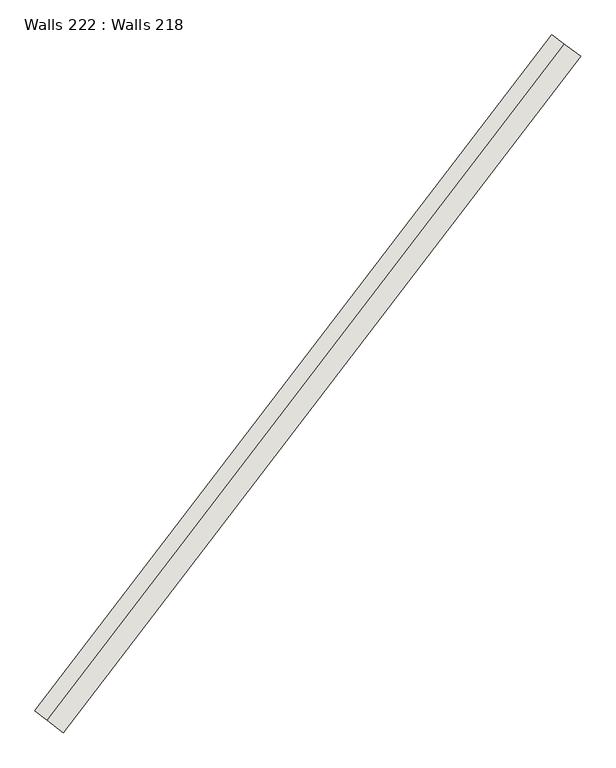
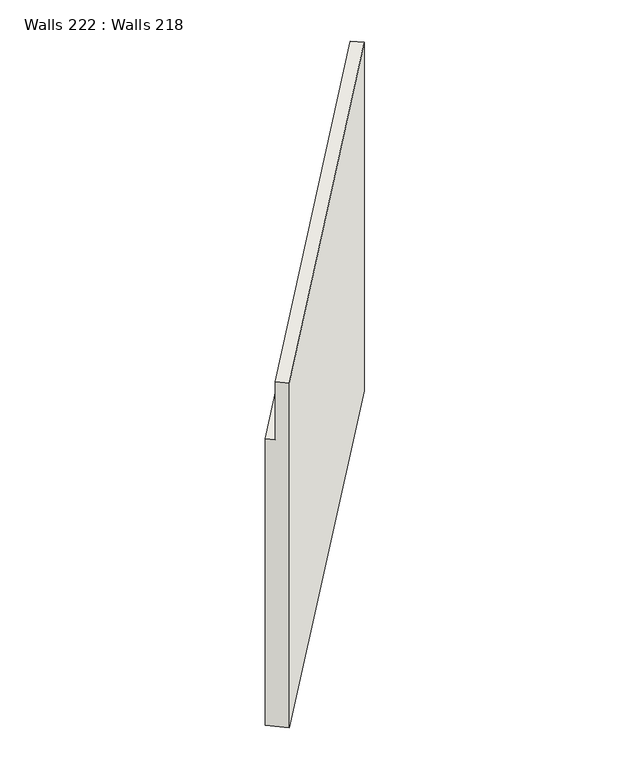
"""IFC4 building model written with IfcOpenShell, lengths in millimetres: wall geometry, Walls 222 : Walls 218."""

from ifc_helpers import new_model, si_unit, frame, origin, place, context, project, spatial, source, transform, mapped, element, save
from ifc_brep_helpers import plane_surface, spline_curve, spline_surface, advanced_brep


def walls_222_walls_218_feb41856(model_context):
    return source(origin(), model_context, "Body", "AdvancedBrep", [
        advanced_brep(
        [(396205.2577611, 315398.19284, 651460.0), (396366.2300075, 315279.5002291, 651460.0), (396366.2300075, 315279.5002291, 645420.0), (396084.5285763, 315487.2122982, 645420.0), (396084.5285763, 315487.2122982, 650460.0), (396205.2577611, 315398.19284, 650460.0), (391204.0228698, 308858.8051081, 651270.0), (391204.0228698, 308858.8051081, 650270.0), (391086.4886364, 308952.0022324, 650270.0), (391086.4886364, 308952.0022324, 645300.0), (391360.735181, 308734.5422757, 645300.0), (391360.735181, 308734.5422757, 651270.0)],
        [
            (0, 1),
            (1, 2),
            (2, 3),
            (3, 4),
            (4, 5),
            (5, 0),
            (6, 7),
            (7, 8),
            (8, 9),
            (9, 10),
            (10, 11),
            (11, 6),
            (11, 1, spline_curve(3, [(391360.735181, 308734.5422757, 651270.0), (393067.310955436, 310886.718852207, 651333.333333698), (394736.151146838, 313068.818556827, 651396.666666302), (396366.2300075, 315279.5002291, 651460.0)], [4, 4], [0.0, 27.029781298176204])),
            (0, 6, spline_curve(3, [(396205.2577611, 315398.19284, 651460.0), (394576.566180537, 313189.392613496, 651396.666666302), (392909.146258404, 311009.150029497, 651333.333333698), (391204.0228698, 308858.8051081, 651270.0)], [4, 4], [0.0, 27.029781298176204])),
            (10, 2, spline_curve(3, [(391360.735181, 308734.5422757, 645300.0), (393067.310954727, 310886.718852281, 645340.000000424), (394736.15114689, 313068.818557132, 645379.999999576), (396366.2300075, 315279.5002291, 645420.0)], [4, 4], [0.0, 27.038878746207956])),
            (9, 3, spline_curve(3, [(391086.4886364, 308952.0022324, 645300.0), (392790.522736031, 311100.973412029, 645340.000000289), (394456.877456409, 313279.8231559, 645379.999999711), (396084.5285763, 315487.2122982, 645420.0)], [4, 4], [0.0, 27.016833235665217])),
            (8, 4, spline_curve(3, [(391086.4886364, 308952.0022324, 650270.0), (392790.522735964, 311100.973412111, 650333.333333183), (394456.877456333, 313279.823155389, 650396.666666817), (396084.5285763, 315487.2122982, 650460.0)], [4, 4], [0.0, 26.998622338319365])),
            (7, 5, spline_curve(3, [(391204.0228698, 308858.8051081, 650270.0), (392909.146258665, 311009.150029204, 650333.333333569), (394576.566180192, 313189.39261363, 650396.666666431), (396205.2577611, 315398.19284, 650460.0)], [4, 4], [0.0, 27.009654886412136])),
        ],
        [
            plane_surface(frame((396218.672115, 315388.3017891, 649113.3333333), z_axis=(0.5934630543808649, 0.8048612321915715, 0.0), x_axis=(0.8048612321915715, -0.5934630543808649, 0.0))),
            plane_surface(frame((391217.0822291, 308848.4498721, 648946.6666667), z_axis=(-0.6213141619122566, -0.7835615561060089, 0.0), x_axis=(0.7835615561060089, -0.6213141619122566, 0.0))),
            spline_surface(3, 3, [[(391204.0228698, 308858.8051081, 651270.0), (392909.146258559, 311009.150029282, 651333.333333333), (394576.566180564, 313189.392613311, 651396.666666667), (396205.2577611, 315398.19284, 651460.0)], [(391256.260306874, 308817.384163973, 651270.0), (392961.867824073, 310968.33963688, 651333.333333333), (394629.761169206, 313149.201261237, 651396.666666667), (396258.915176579, 315358.628636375, 651460.0)], [(391308.497743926, 308775.963219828, 651270.0), (393014.589389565, 310927.529244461, 651333.333333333), (394682.95615781, 313109.009909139, 651396.666666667), (396312.572592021, 315319.064432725, 651460.0)], [(391360.735181, 308734.5422757, 651270.0), (393067.310955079, 310886.718852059, 651333.333333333), (394736.151146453, 313068.818557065, 651396.666666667), (396366.2300075, 315279.5002291, 651460.0)]], [4, 4], [4, 4], [0.0, 0.6561679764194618], [0.0, 27.029781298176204]),
            spline_surface(3, 3, [[(391360.735181, 308734.5422757, 651270.0), (393067.310955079, 310886.718852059, 651333.333333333), (394736.151146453, 313068.818557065, 651396.666666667), (396366.2300075, 315279.5002291, 651460.0)], [(391360.735181, 308734.5422757, 649280.0), (393067.310955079, 310886.718852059, 649335.555555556), (394736.151146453, 313068.818557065, 649391.111111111), (396366.2300075, 315279.5002291, 649446.666666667)], [(391360.735181, 308734.5422757, 647290.0), (393067.310955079, 310886.718852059, 647337.777777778), (394736.151146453, 313068.818557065, 647385.555555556), (396366.2300075, 315279.5002291, 647433.333333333)], [(391360.735181, 308734.5422757, 645300.0), (393067.310955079, 310886.718852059, 645340.0), (394736.151146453, 313068.818557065, 645380.0), (396366.2300075, 315279.5002291, 645420.0)]], [4, 4], [4, 4], [0.0, 19.701443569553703], [0.0, 27.038878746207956]),
            spline_surface(3, 3, [[(391360.735181, 308734.5422757, 645300.0), (393067.310955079, 310886.718852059, 645340.0), (394736.151146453, 313068.818557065, 645380.0), (396366.2300075, 315279.5002291, 645420.0)], [(391269.319666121, 308807.028927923, 645300.0), (392975.04821543, 310958.137038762, 645340.0), (394643.059916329, 313139.153423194, 645380.0), (396272.329530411, 315348.737585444, 645420.0)], [(391177.904151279, 308879.515580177, 645300.0), (392882.785475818, 311029.555225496, 645340.0), (394549.968686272, 313209.488289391, 645380.0), (396178.429053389, 315417.974941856, 645420.0)], [(391086.4886364, 308952.0022324, 645300.0), (392790.522736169, 311100.973412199, 645340.0), (394456.877456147, 313279.82315552, 645380.0), (396084.5285763, 315487.2122982, 645420.0)]], [4, 4], [4, 4], [0.0, 1.1482939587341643], [0.0, 27.016833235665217]),
            spline_surface(3, 3, [[(391086.4886364, 308952.0022324, 645300.0), (392790.522736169, 311100.973412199, 645340.0), (394456.877456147, 313279.82315552, 645380.0), (396084.5285763, 315487.2122982, 645420.0)], [(391086.4886364, 308952.0022324, 646956.666666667), (392790.522736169, 311100.973412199, 647004.444444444), (394456.877456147, 313279.82315552, 647052.222222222), (396084.5285763, 315487.2122982, 647100.0)], [(391086.4886364, 308952.0022324, 648613.333333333), (392790.522736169, 311100.973412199, 648668.888888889), (394456.877456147, 313279.82315552, 648724.444444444), (396084.5285763, 315487.2122982, 648780.0)], [(391086.4886364, 308952.0022324, 650270.0), (392790.522736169, 311100.973412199, 650333.333333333), (394456.877456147, 313279.82315552, 650396.666666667), (396084.5285763, 315487.2122982, 650460.0)]], [4, 4], [4, 4], [0.0, 16.42060367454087], [0.0, 26.998622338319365]),
            spline_surface(3, 3, [[(391086.4886364, 308952.0022324, 650270.0), (392790.522736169, 311100.973412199, 650333.333333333), (394456.877456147, 313279.82315552, 650396.666666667), (396084.5285763, 315487.2122982, 650460.0)], [(391125.666714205, 308920.936524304, 650270.0), (392830.063910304, 311070.365617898, 650333.333333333), (394496.773697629, 313249.679641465, 650396.666666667), (396124.77163791, 315457.539145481, 650460.0)], [(391164.844791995, 308889.870816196, 650270.0), (392869.605084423, 311039.757823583, 650333.333333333), (394536.669939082, 313219.536127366, 650396.666666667), (396165.01469949, 315427.865992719, 650460.0)], [(391204.0228698, 308858.8051081, 650270.0), (392909.146258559, 311009.150029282, 650333.333333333), (394576.566180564, 313189.392613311, 650396.666666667), (396205.2577611, 315398.19284, 650460.0)]], [4, 4], [4, 4], [0.0, 0.4921259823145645], [0.0, 27.009654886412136]),
            spline_surface(3, 3, [[(391204.0228698, 308858.8051081, 650270.0), (392909.146258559, 311009.150029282, 650333.333333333), (394576.566180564, 313189.392613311, 650396.666666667), (396205.2577611, 315398.19284, 650460.0)], [(391204.0228698, 308858.8051081, 650603.333333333), (392909.146258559, 311009.150029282, 650666.666666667), (394576.566180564, 313189.392613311, 650730.0), (396205.2577611, 315398.19284, 650793.333333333)], [(391204.0228698, 308858.8051081, 650936.666666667), (392909.146258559, 311009.150029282, 651000.0), (394576.566180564, 313189.392613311, 651063.333333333), (396205.2577611, 315398.19284, 651126.666666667)], [(391204.0228698, 308858.8051081, 651270.0), (392909.146258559, 311009.150029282, 651333.333333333), (394576.566180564, 313189.392613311, 651396.666666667), (396205.2577611, 315398.19284, 651460.0)]], [4, 4], [4, 4], [0.0, 3.280839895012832], [0.0, 27.018280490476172]),
        ],
        [
            (0, [[1, 2, 3, 4, 5, 6]]),
            (1, [[7, 8, 9, 10, 11, 12]]),
            (2, [[-12, 13, -1, 14]]),
            (3, [[-11, 15, -2, -13]]),
            (4, [[-10, 16, -3, -15]]),
            (5, [[-9, 17, -4, -16]]),
            (6, [[-8, 18, -5, -17]]),
            (7, [[-7, -14, -6, -18]]),
        ],
    ),
    ])


if __name__ == "__main__":
    model = new_model("IFC4")
    model_context = context("Model", 3, world=origin())
    ifc_project = project(units=[si_unit("LENGTHUNIT", "METRE", prefix="MILLI")], contexts=[model_context])
    site = spatial("IfcSite", under=ifc_project)
    building = spatial("IfcBuilding", under=site)
    placement = place(None, origin())
    walls_222_walls_218_shape = walls_222_walls_218_feb41856(model_context)
    element("IfcWall", 1, ObjectType="Walls 222 : Walls 218", at=placement, inside=building, context=model_context, shape_type="MappedRepresentation", body=[
        mapped(walls_222_walls_218_shape, transform((0.0, 0.0, 0.0), x_axis=(1.0, 0.0, 0.0), y_axis=(0.0, 1.0, 0.0), z_axis=(0.0, 0.0, 1.0))),
    ])
    save(model, "model.ifc")
